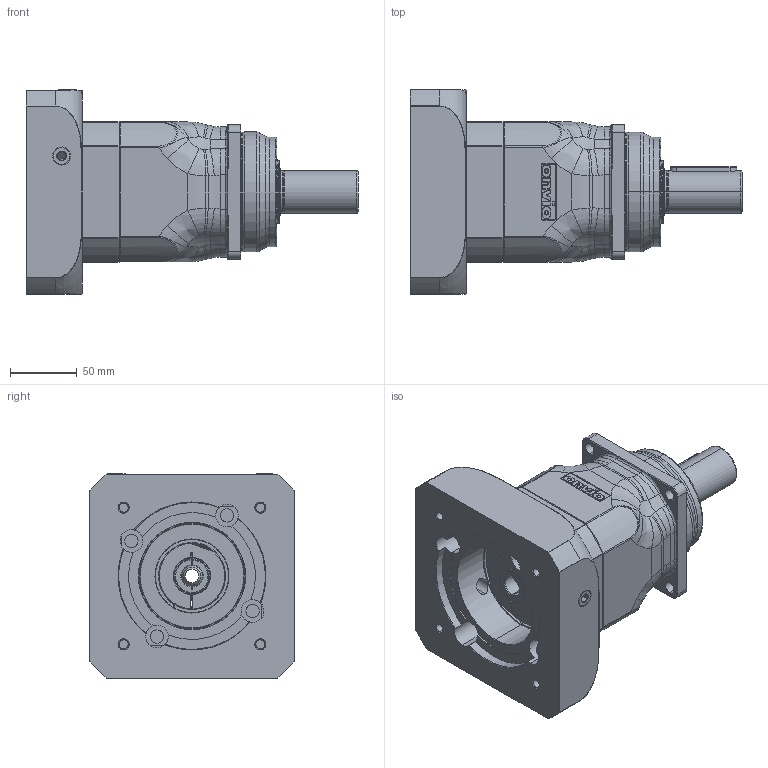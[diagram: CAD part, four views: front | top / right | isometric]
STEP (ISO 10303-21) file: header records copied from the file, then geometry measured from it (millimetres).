
FILE_DESCRIPTION (( 'STEP AP214' ), '1' );
FILE_NAME ('AH-030-RRR-FFF-MMM-S-LL-XXX-CXX-0000.STEP', '2019-10-11T20:26:01', ( '' ), ( '' ), 'SwSTEP 2.0', 'SolidWorks 2019', '' );
FILE_SCHEMA (( 'AUTOMOTIVE_DESIGN' ));
Length unit declared in the file: millimetre
Products named in the file (1): AH-030-RRR-FFF-MMM-S-LL-XXX-CXX-0000
Bounding box: 249 x 153 x 153 mm (x, y, z)
Surface area: 164340.5 mm2 (no closed solid volume)
Topology: 0 solids, 73 shells, 755 faces, 3116 edges, 2398 vertices
Faces by surface type: cylinder 258, plane 187, torus 129, cone 99, bspline 82
Entity records: 49499 total; most frequent: CARTESIAN_POINT 16959, DIRECTION 4783, ORIENTED_EDGE 4447, EDGE_CURVE 3112, VERTEX_POINT 2398, AXIS2_PLACEMENT_3D 1729, LINE 1325, VECTOR 1325
